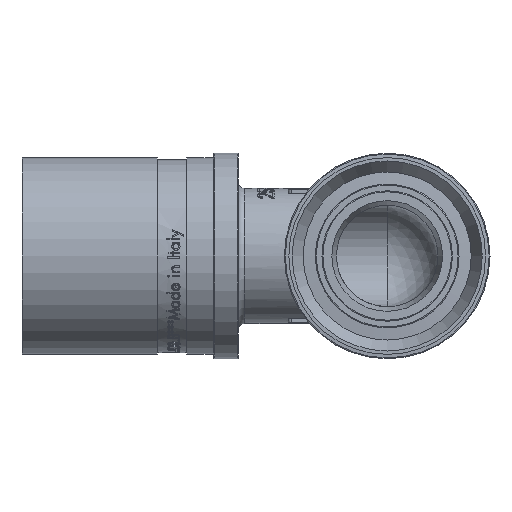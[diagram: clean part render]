
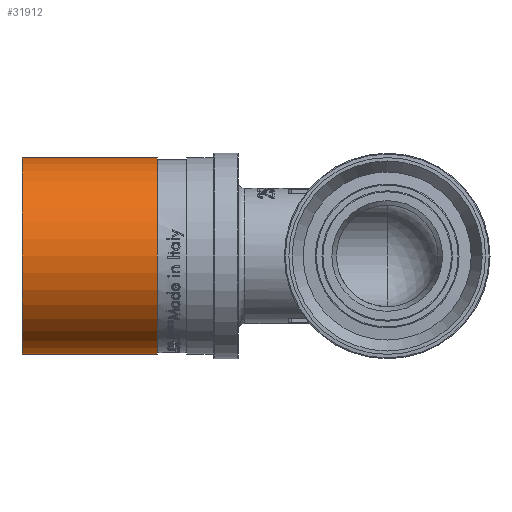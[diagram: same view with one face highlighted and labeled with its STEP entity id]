
A CAD part, left-side view. The second image highlights one B-rep face of the part: STEP entity #31912.
In plain terms, the highlighted cylindrical face has radius 14.925 mm (diameter 29.85 mm), a full revolution.
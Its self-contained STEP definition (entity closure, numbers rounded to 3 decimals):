
#5036=LINE('',#59791,#7268);
#7268=VECTOR('',#37665,14.925);
#8152=CYLINDRICAL_SURFACE('',#33549,14.925);
#9299=FACE_OUTER_BOUND('',#11172,.T.);
#11172=EDGE_LOOP('',(#26681,#26682,#26683,#26684,#26685,#26686));
#12346=CIRCLE('',#33547,14.925);
#12347=CIRCLE('',#33548,14.925);
#12348=CIRCLE('',#33550,14.925);
#12349=CIRCLE('',#33551,14.925);
#14773=VERTEX_POINT('',#59782);
#14774=VERTEX_POINT('',#59783);
#14775=VERTEX_POINT('',#59787);
#14776=VERTEX_POINT('',#59788);
#19031=EDGE_CURVE('',#14773,#14774,#12346,.T.);
#19032=EDGE_CURVE('',#14774,#14773,#12347,.T.);
#19033=EDGE_CURVE('',#14775,#14776,#12348,.T.);
#19034=EDGE_CURVE('',#14776,#14775,#12349,.T.);
#19035=EDGE_CURVE('',#14776,#14774,#5036,.T.);
#26681=ORIENTED_EDGE('',*,*,#19033,.F.);
#26682=ORIENTED_EDGE('',*,*,#19034,.F.);
#26683=ORIENTED_EDGE('',*,*,#19035,.T.);
#26684=ORIENTED_EDGE('',*,*,#19032,.T.);
#26685=ORIENTED_EDGE('',*,*,#19031,.T.);
#26686=ORIENTED_EDGE('',*,*,#19035,.F.);
#31912=ADVANCED_FACE('',(#9299),#8152,.T.);
#33547=AXIS2_PLACEMENT_3D('',#59784,#37655,#37656);
#33548=AXIS2_PLACEMENT_3D('',#59785,#37657,#37658);
#33549=AXIS2_PLACEMENT_3D('',#59786,#37659,#37660);
#33550=AXIS2_PLACEMENT_3D('',#59789,#37661,#37662);
#33551=AXIS2_PLACEMENT_3D('',#59790,#37663,#37664);
#37655=DIRECTION('center_axis',(0.,-1.,0.));
#37656=DIRECTION('ref_axis',(0.,0.,-1.));
#37657=DIRECTION('center_axis',(0.,-1.,0.));
#37658=DIRECTION('ref_axis',(0.,0.,-1.));
#37659=DIRECTION('center_axis',(0.,-1.,0.));
#37660=DIRECTION('ref_axis',(1.,0.,0.));
#37661=DIRECTION('center_axis',(0.,-1.,0.));
#37662=DIRECTION('ref_axis',(0.,0.,-1.));
#37663=DIRECTION('center_axis',(0.,-1.,0.));
#37664=DIRECTION('ref_axis',(0.,0.,-1.));
#37665=DIRECTION('',(0.,1.,0.));
#59782=CARTESIAN_POINT('',(14.925,55.412,0.));
#59783=CARTESIAN_POINT('',(-14.925,55.412,0.));
#59784=CARTESIAN_POINT('Origin',(0.,55.412,
0.));
#59785=CARTESIAN_POINT('Origin',(0.,55.412,
0.));
#59786=CARTESIAN_POINT('Origin',(0.,45.162,
0.));
#59787=CARTESIAN_POINT('',(14.925,34.912,0.));
#59788=CARTESIAN_POINT('',(-14.925,34.912,0.));
#59789=CARTESIAN_POINT('Origin',(0.,34.912,
0.));
#59790=CARTESIAN_POINT('Origin',(0.,34.912,
0.));
#59791=CARTESIAN_POINT('',(-14.925,45.162,0.));
